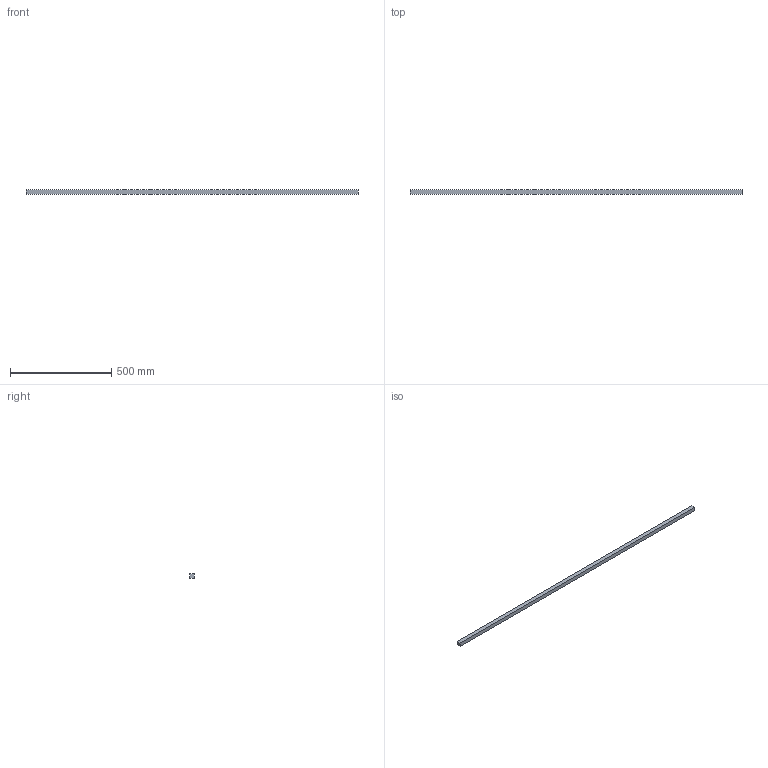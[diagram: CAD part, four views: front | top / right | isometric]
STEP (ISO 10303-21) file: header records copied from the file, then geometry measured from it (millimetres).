
FILE_DESCRIPTION(('Open CASCADE Model'),'2;1');
FILE_NAME('Open CASCADE Shape Model','2026-10-16T18:03:45',('Author'),( 'Open CASCADE'),'Open CASCADE STEP processor 7.8','Open CASCADE 7.8' ,'Unknown');
FILE_SCHEMA(('AUTOMOTIVE_DESIGN { 1 0 10303 214 1 1 1 1 }'));
Length unit declared in the file: millimetre
Products named in the file (1): Open CASCADE STEP translator 7.8 41
Bounding box: 1640 x 20 x 20 mm (x, y, z)
Volume: 656000 mm3; surface area: 132000 mm2
Topology: 1 solids, 1 shells, 6 faces, 12 edges, 8 vertices
Faces by surface type: plane 6
Entity records: 322 total; most frequent: CARTESIAN_POINT 51, DIRECTION 50, LINE 36, VECTOR 36, ORIENTED_EDGE 24, PCURVE 24, DEFINITIONAL_REPRESENTATION 24, EDGE_CURVE 12
